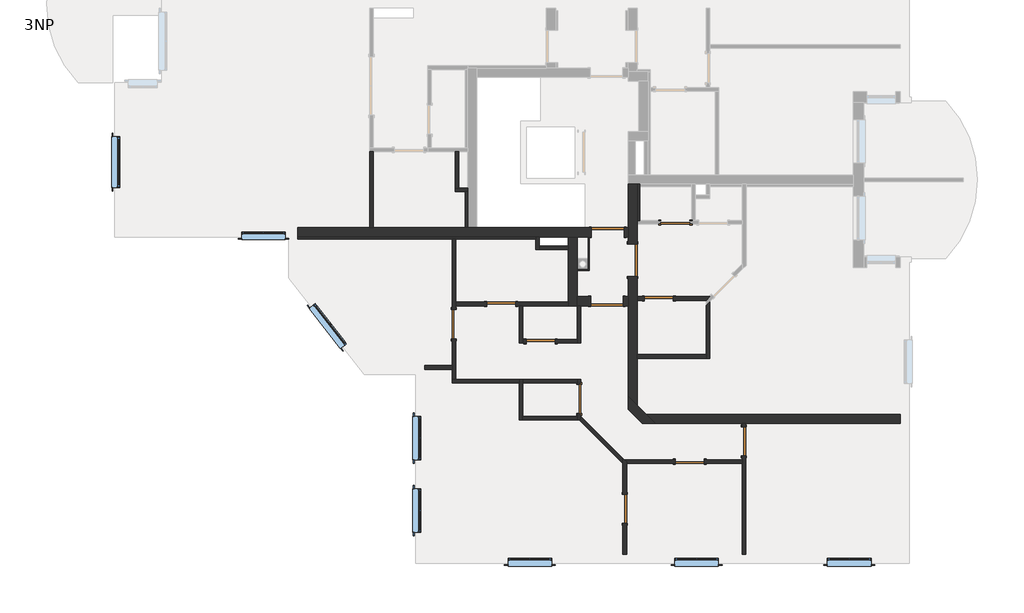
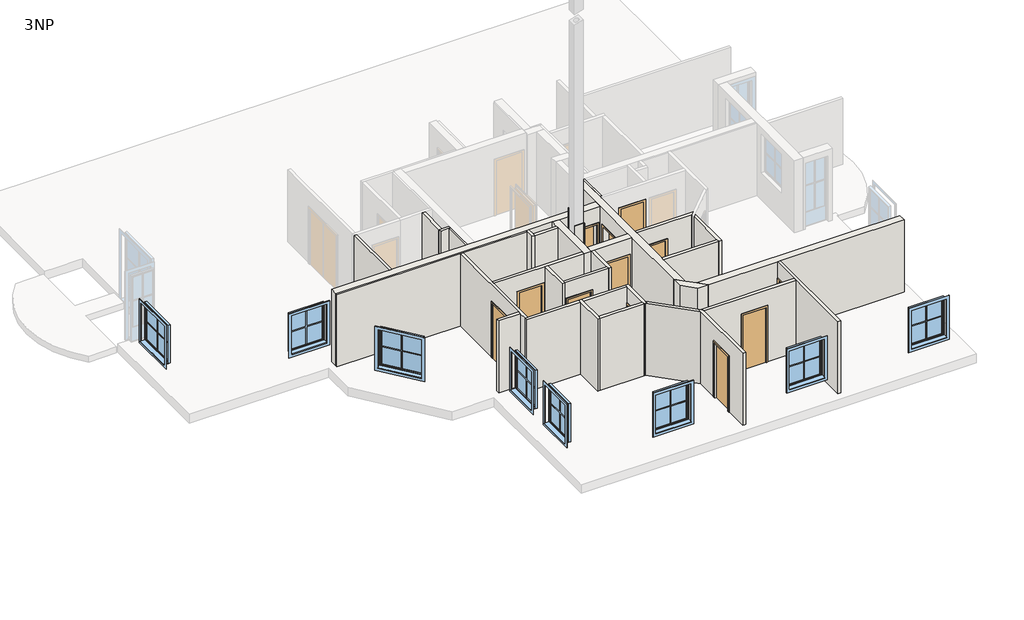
# One storey, part 1 of 4: 34 walls, 12 doors, 8 windows.
"""IFC4 building model written with IfcOpenShell, lengths in millimetres."""

import ifcopenshell
import ifcopenshell.guid

model = None  # the IFC model being written
_history = None  # IfcOwnerHistory: only IFC2X3 demands one
_inside = {}  # id of a spatial element -> (the spatial element, [elements in it])
_under = {}  # id of a project, library or spatial element -> (it, [spatial elements below it])
_declared = {}  # id of a project -> (the project, [libraries it declares])
_typed = {}  # id of a type object -> (the type object, [elements of that type])
_made_of = {}  # id of a material, layer set ... -> (it, [elements and type objects made of it])


def new_model(schema):
    """Start an empty IFC model of exactly this schema.

    Asked for "IFC4X3", IfcOpenShell would pick the latest addendum, in which some entities
    have other attributes; the version numbers below select the first issue.
    IFC2X3 requires an IfcOwnerHistory on every rooted entity: one is made here for all.
    """
    global model, _history
    if schema == "IFC4X3":
        model = ifcopenshell.file(schema_version=(4, 3, 0, 0))
    else:
        model = ifcopenshell.file(schema=schema)
    _inside.clear()
    _under.clear()
    _declared.clear()
    _typed.clear()
    _made_of.clear()
    _history = None
    if model.schema == "IFC2X3":
        org = make("IfcOrganization", Name="unknown")
        user = make(
            "IfcPersonAndOrganization",
            ThePerson=make("IfcPerson", FamilyName="unknown"),
            TheOrganization=org,
        )
        app = make(
            "IfcApplication",
            ApplicationDeveloper=org,
            Version="unknown",
            ApplicationFullName="unknown",
            ApplicationIdentifier="unknown",
        )
        _history = make(
            "IfcOwnerHistory",
            OwningUser=user,
            OwningApplication=app,
            ChangeAction="ADDED",
            CreationDate=0,
        )
    return model


def make(cls, **values):
    """One entity of the class cls with the attributes given. An attribute that is None is left unset."""
    return model.create_entity(
        cls, **{name: value for name, value in values.items() if value is not None}
    )


def rooted(cls, **values):
    """An entity with a GlobalId (a new one), such as an element, a storey or a relation."""
    return make(cls, GlobalId=ifcopenshell.guid.new(), OwnerHistory=_history, **values)


def si_unit(unit_type, name, prefix=None):
    """IfcSIUnit, for example si_unit("LENGTHUNIT", "METRE", prefix="MILLI")."""
    return make("IfcSIUnit", UnitType=unit_type, Prefix=prefix, Name=name)


def assignment(units):
    """IfcUnitAssignment: the units of a project."""
    return None if units is None else make("IfcUnitAssignment", Units=units)


def point(xyz):
    """IfcCartesianPoint."""
    return None if xyz is None else make("IfcCartesianPoint", Coordinates=xyz)


def direction(xyz):
    """IfcDirection."""
    return None if xyz is None else make("IfcDirection", DirectionRatios=xyz)


def frame(location, z_axis=None, x_axis=None):
    """IfcAxis2Placement3D, a coordinate frame: its origin and axes. An axis left out is left unset."""
    return make(
        "IfcAxis2Placement3D",
        Location=point(location),
        Axis=direction(z_axis),
        RefDirection=direction(x_axis),
    )


def origin():
    """The frame at (0, 0, 0) with its axes left unset."""
    return frame((0.0, 0.0, 0.0))


def origin_with_axes():
    """The frame at (0, 0, 0) with the z axis (0, 0, 1) and the x axis (1, 0, 0) written out."""
    return frame((0.0, 0.0, 0.0), z_axis=(0.0, 0.0, 1.0), x_axis=(1.0, 0.0, 0.0))


def place(relative_to, where):
    """IfcLocalPlacement: puts the frame where relative to a parent placement (None: the world)."""
    return make(
        "IfcLocalPlacement", PlacementRelTo=relative_to, RelativePlacement=where
    )


def context(
    kind, dimensions, precision=None, world=None, true_north=None, identifier=None
):
    """IfcGeometricRepresentationContext, for example the 3D "Model" context."""
    return make(
        "IfcGeometricRepresentationContext",
        ContextIdentifier=identifier,
        ContextType=kind,
        CoordinateSpaceDimension=dimensions,
        Precision=precision,
        WorldCoordinateSystem=world,
        TrueNorth=true_north,
    )


def project(units=None, contexts=None):
    """IfcProject with its units and contexts."""
    return rooted(
        "IfcProject",
        Name="project",
        RepresentationContexts=contexts,
        UnitsInContext=assignment(units),
    )


def spatial(cls, under=None, at=None, **own):
    """A site, building, storey or space (cls), placed at a placement, below another one or the project."""
    s = rooted(cls, ObjectPlacement=at, **own)
    if under is not None:
        _under.setdefault(under.id(), (under, []))[1].append(s)
    return s


def polyline(points):
    """IfcPolyline through the points."""
    return make("IfcPolyline", Points=[point(p) for p in points])


def outline(outer, holes=None, kind="AREA"):
    """IfcArbitraryClosedProfileDef: a profile drawn as a closed curve; with holes, ...WithVoids."""
    if holes is None:
        return make("IfcArbitraryClosedProfileDef", ProfileType=kind, OuterCurve=outer)
    return make(
        "IfcArbitraryProfileDefWithVoids",
        ProfileType=kind,
        OuterCurve=outer,
        InnerCurves=holes,
    )


def extrude(swept, where, along, depth):
    """IfcExtrudedAreaSolid: the profile swept, set in the frame where, extruded along a direction by depth."""
    return make(
        "IfcExtrudedAreaSolid",
        SweptArea=swept,
        Position=where,
        ExtrudedDirection=direction(along),
        Depth=depth,
    )


def faces_of(points, faces, orient=None, outer=None):
    """IfcFace entities. A face is a list of loops; a loop is a list of indices into points, from 0.

    orient and outer hold one flag for each loop. By default every Orientation is true, the
    first loop of a face is its IfcFaceOuterBound and the others are IfcFaceBound.
    """
    made = []
    for i, loops in enumerate(faces):
        bounds = []
        for j, loop in enumerate(loops):
            is_outer = j == 0 if outer is None else outer[i][j]
            bounds.append(
                make(
                    "IfcFaceOuterBound" if is_outer else "IfcFaceBound",
                    Bound=make("IfcPolyLoop", Polygon=[points[k] for k in loop]),
                    Orientation=True if orient is None else orient[i][j],
                )
            )
        made.append(make("IfcFace", Bounds=bounds))
    return made


def faceted_brep(points, faces, orient=None, outer=None, voids=None):
    """IfcFacetedBrep: a solid bounded by flat faces; with voids (closed shells), ...WithVoids."""
    shared = [point(p) for p in points]
    hull = make("IfcClosedShell", CfsFaces=faces_of(shared, faces, orient, outer))
    if voids is None:
        return make("IfcFacetedBrep", Outer=hull)
    return make(
        "IfcFacetedBrepWithVoids",
        Outer=hull,
        Voids=[
            make(cls, CfsFaces=faces_of(shared, fs, o, b)) for cls, fs, o, b in voids
        ],
    )


def shape(context_of_items, identifier, shape_type, items):
    """IfcShapeRepresentation: the items that make up one representation, for example the "Body"."""
    return make(
        "IfcShapeRepresentation",
        ContextOfItems=context_of_items,
        RepresentationIdentifier=identifier,
        RepresentationType=shape_type,
        Items=items,
    )


def source(mapping_origin, context_of_items, identifier, shape_type, items):
    """IfcRepresentationMap: a shape defined once, which mapped items show again and again."""
    return make(
        "IfcRepresentationMap",
        MappingOrigin=mapping_origin,
        MappedRepresentation=shape(context_of_items, identifier, shape_type, items),
    )


def transform(
    local_origin,
    x_axis=None,
    y_axis=None,
    z_axis=None,
    scale=None,
    scale2=None,
    scale3=None,
    uniform=True,
):
    """IfcCartesianTransformationOperator3D, or its non-uniform kind. x_axis, y_axis, z_axis: its Axis1, 2, 3."""
    if uniform:
        return make(
            "IfcCartesianTransformationOperator3D",
            Axis1=direction(x_axis),
            Axis2=direction(y_axis),
            LocalOrigin=point(local_origin),
            Scale=scale,
            Axis3=direction(z_axis),
        )
    return make(
        "IfcCartesianTransformationOperator3DnonUniform",
        Axis1=direction(x_axis),
        Axis2=direction(y_axis),
        LocalOrigin=point(local_origin),
        Scale=scale,
        Axis3=direction(z_axis),
        Scale2=scale2,
        Scale3=scale3,
    )


def mapped(mapping_source, mapping_target):
    """IfcMappedItem: shows the shape of a source again, moved by a transform."""
    return make(
        "IfcMappedItem", MappingSource=mapping_source, MappingTarget=mapping_target
    )


def made_of(thing, what):
    """Note that an element or type object is made of a material, layer set ...; save() writes the relation."""
    if what is not None:
        _made_of.setdefault(what.id(), (what, []))[1].append(thing)
    return thing


def element(
    cls,
    number,
    at=None,
    inside=None,
    cuts=None,
    type_object=None,
    material=None,
    context=None,
    identifier="Body",
    shape_type=None,
    held_by="IfcProductDefinitionShape",
    body=None,
    shapes=None,
    **own,
):
    """One element of the class cls, such as IfcWall. Its Tag is "e" and its number.

    at: its placement. inside: the storey or other place that contains it. cuts: it is an
    opening in that element (IfcRelVoidsElement). A single representation is given by context,
    identifier, shape_type and body (its items); several are given by shapes. held_by: the class
    of the entity that holds the representations. save() writes the other relations.
    """
    e = rooted(cls, Tag="e%d" % number, ObjectPlacement=at, **own)
    if body is not None:
        shapes = [shape(context, identifier, shape_type, body)]
    if shapes is not None:
        e.Representation = make(held_by, Representations=shapes)
    if inside is not None:
        _inside.setdefault(inside.id(), (inside, []))[1].append(e)
    if cuts is not None:
        rooted(
            "IfcRelVoidsElement", RelatingBuildingElement=cuts, RelatedOpeningElement=e
        )
    if type_object is not None:
        _typed.setdefault(type_object.id(), (type_object, []))[1].append(e)
    return made_of(e, material)


def aggregate(whole, parts):
    """IfcRelAggregates: a whole, such as a stair, and the parts it consists of."""
    return rooted("IfcRelAggregates", RelatingObject=whole, RelatedObjects=parts)


def save(model, path):
    """Write the relations noted so far, then the file.

    IfcRelAggregates (storeys below a building ...), IfcRelContainedInSpatialStructure (elements
    in a storey), IfcRelDefinesByType, IfcRelAssociatesMaterial and IfcRelDeclares: one each for
    every whole, place, type object, material and project.
    """
    for whole, parts in _under.values():
        aggregate(whole, parts)
    for where, things in _inside.values():
        rooted(
            "IfcRelContainedInSpatialStructure",
            RelatedElements=things,
            RelatingStructure=where,
        )
    for kind, things in _typed.values():
        rooted("IfcRelDefinesByType", RelatedObjects=things, RelatingType=kind)
    for what, things in _made_of.values():
        rooted("IfcRelAssociatesMaterial", RelatedObjects=things, RelatingMaterial=what)
    for by, libraries in _declared.values():
        rooted("IfcRelDeclares", RelatingContext=by, RelatedDefinitions=libraries)
    model.write(path)


def sd_800x2000_6a16926d(model_context):
    return source(origin(), model_context, "Body", "SweptSolid", [
        extrude(outline(polyline([(2060.0, -460.0), (0.0, -460.0), (0.0, -400.0), (2000.0, -400.0), (2000.0, 400.0), (0.0, 400.0), (0.0, 460.0), (2060.0, 460.0), (2060.0, -460.0)])), frame((0.0, -70.0, 0.0), z_axis=(0.0, 1.0, 0.0), x_axis=(0.0, 0.0, 1.0)), (0.0, 0.0, 1.0), 20.0),
        extrude(outline(polyline([(2060.0, 460.0), (2060.0, -460.0), (0.0, -460.0), (0.0, -400.0), (2000.0, -400.0), (2000.0, 400.0), (0.0, 400.0), (0.0, 460.0), (2060.0, 460.0)])), frame((0.0, 50.0, 0.0), z_axis=(0.0, 1.0, 0.0), x_axis=(0.0, 0.0, 1.0)), (0.0, 0.0, 1.0), 20.0),
        extrude(outline(polyline([(400.0, 0.0), (400.0, -50.0), (-400.0, -50.0), (-400.0, 0.0), (400.0, 0.0)])), origin_with_axes(), (0.0, 0.0, 1.0), 2000.0),
    ])


def sd_800x2000_80f4ff25(model_context):
    return source(origin(), model_context, "Body", "SweptSolid", [
        extrude(outline(polyline([(2060.0, -460.0), (0.0, -460.0), (0.0, -400.0), (2000.0, -400.0), (2000.0, 400.0), (0.0, 400.0), (0.0, 460.0), (2060.0, 460.0), (2060.0, -460.0)])), frame((0.0, 50.0, 0.0), z_axis=(0.0, 1.0, 0.0), x_axis=(0.0, 0.0, 1.0)), (0.0, 0.0, 1.0), 20.0),
        extrude(outline(polyline([(2060.0, 460.0), (2060.0, -460.0), (0.0, -460.0), (0.0, -400.0), (2000.0, -400.0), (2000.0, 400.0), (0.0, 400.0), (0.0, 460.0), (2060.0, 460.0)])), frame((0.0, -70.0, 0.0), z_axis=(0.0, 1.0, 0.0), x_axis=(0.0, 0.0, 1.0)), (0.0, 0.0, 1.0), 20.0),
        extrude(outline(polyline([(400.0, 0.0), (-400.0, 0.0), (-400.0, 50.0), (400.0, 50.0), (400.0, 0.0)])), origin_with_axes(), (0.0, 0.0, 1.0), 2000.0),
    ])


def sd_900x2000_a6683946(model_context):
    return source(origin(), model_context, "Body", "SweptSolid", [
        extrude(outline(polyline([(2060.0, -510.0), (0.0, -510.0), (0.0, -450.0), (2000.0, -450.0), (2000.0, 450.0), (0.0, 450.0), (0.0, 510.0), (2060.0, 510.0), (2060.0, -510.0)])), frame((0.0, -145.0, 0.0), z_axis=(0.0, 1.0, 0.0), x_axis=(0.0, 0.0, 1.0)), (0.0, 0.0, 1.0), 20.0),
        extrude(outline(polyline([(2060.0, 510.0), (2060.0, -510.0), (0.0, -510.0), (0.0, -450.0), (2000.0, -450.0), (2000.0, 450.0), (0.0, 450.0), (0.0, 510.0), (2060.0, 510.0)])), frame((0.0, 125.0, 0.0), z_axis=(0.0, 1.0, 0.0), x_axis=(0.0, 0.0, 1.0)), (0.0, 0.0, 1.0), 20.0),
        extrude(outline(polyline([(450.0, -75.0), (450.0, -125.0), (-450.0, -125.0), (-450.0, -75.0), (450.0, -75.0)])), origin_with_axes(), (0.0, 0.0, 1.0), 2000.0),
    ])


def sd_900x2000_4224ae2a(model_context):
    return source(origin(), model_context, "Body", "SweptSolid", [
        extrude(outline(polyline([(2060.0, -510.0), (0.0, -510.0), (0.0, -450.0), (2000.0, -450.0), (2000.0, 450.0), (0.0, 450.0), (0.0, 510.0), (2060.0, 510.0), (2060.0, -510.0)])), frame((0.0, 125.0, 0.0), z_axis=(0.0, 1.0, 0.0), x_axis=(0.0, 0.0, 1.0)), (0.0, 0.0, 1.0), 20.0),
        extrude(outline(polyline([(2060.0, 510.0), (2060.0, -510.0), (0.0, -510.0), (0.0, -450.0), (2000.0, -450.0), (2000.0, 450.0), (0.0, 450.0), (0.0, 510.0), (2060.0, 510.0)])), frame((0.0, -145.0, 0.0), z_axis=(0.0, 1.0, 0.0), x_axis=(0.0, 0.0, 1.0)), (0.0, 0.0, 1.0), 20.0),
        extrude(outline(polyline([(450.0, 75.0), (-450.0, 75.0), (-450.0, 125.0), (450.0, 125.0), (450.0, 75.0)])), origin_with_axes(), (0.0, 0.0, 1.0), 2000.0),
    ])


def standard_window_with_mullions_d3525f46(model_context):
    return source(origin(), model_context, "Body", "SweptSolid", [
        extrude(outline(polyline([(700.0, 26.9623738), (-700.0, 26.9623738), (-700.0, 180.0), (700.0, 180.0), (700.0, 26.9623738)])), frame((0.0, 0.0, 1000.0), z_axis=(0.0, 0.0, 1.0), x_axis=(1.0, 0.0, 0.0)), (0.0, 0.0, 1.0), 25.0),
        extrude(outline(polyline([(2500.0, -800.0), (900.0, -800.0), (900.0, 800.0), (2500.0, 800.0), (2500.0, -800.0)]), holes=[polyline([(2400.0, -700.0), (2400.0, 700.0), (1000.0, 700.0), (1000.0, -700.0), (2400.0, -700.0)])]), frame((0.0, 150.0, 0.0), z_axis=(0.0, 1.0, 0.0), x_axis=(0.0, 0.0, 1.0)), (0.0, 0.0, 1.0), 15.0),
        extrude(outline(polyline([(2375.0, -675.0), (1025.0, -675.0), (1025.0, 675.0), (2375.0, 675.0), (2375.0, -675.0)]), holes=[polyline([(2340.0, -640.0), (2340.0, 640.0), (1060.0, 640.0), (1060.0, -640.0), (2340.0, -640.0)])]), frame((0.0, -39.0188131, 0.0), z_axis=(0.0, 1.0, 0.0), x_axis=(0.0, 0.0, 1.0)), (0.0, 0.0, 1.0), 50.5),
        extrude(outline(polyline([(1000.0, -700.0), (1000.0, 700.0), (2400.0, 700.0), (2400.0, -700.0), (1000.0, -700.0)]), holes=[polyline([(1025.0, -675.0), (2375.0, -675.0), (2375.0, 675.0), (1025.0, 675.0), (1025.0, -675.0)])]), frame((0.0, -39.0188131, 0.0), z_axis=(0.0, 1.0, 0.0), x_axis=(0.0, 0.0, 1.0)), (0.0, 0.0, 1.0), 65.9811869),
        extrude(outline(polyline([(1715.0, 640.0), (1715.0, 15.0), (2340.0, 15.0), (2340.0, -15.0), (1715.0, -15.0), (1715.0, -640.0), (1685.0, -640.0), (1685.0, -15.0), (1060.0, -15.0), (1060.0, 15.0), (1685.0, 15.0), (1685.0, 640.0), (1715.0, 640.0)])), frame((0.0, -28.5188131, 0.0), z_axis=(0.0, 1.0, 0.0), x_axis=(0.0, 0.0, 1.0)), (0.0, 0.0, 1.0), 20.0),
        extrude(outline(polyline([(640.0, -15.5188131), (-640.0, -15.5188131), (-640.0, -13.5188131), (640.0, -13.5188131), (640.0, -15.5188131)])), frame((0.0, 0.0, 1060.0), z_axis=(0.0, 0.0, 1.0), x_axis=(1.0, 0.0, 0.0)), (0.0, 0.0, 1.0), 1280.0),
    ])


def standard_window_with_mullions_80486b60(model_context):
    return source(origin(), model_context, "Body", "SweptSolid", [
        extrude(outline(polyline([(600.0, 26.9623738), (-600.0, 26.9623738), (-600.0, 180.0), (600.0, 180.0), (600.0, 26.9623738)])), frame((0.0, 0.0, 1000.0), z_axis=(0.0, 0.0, 1.0), x_axis=(1.0, 0.0, 0.0)), (0.0, 0.0, 1.0), 25.0),
        extrude(outline(polyline([(2500.0, -700.0), (900.0, -700.0), (900.0, 700.0), (2500.0, 700.0), (2500.0, -700.0)]), holes=[polyline([(2400.0, -600.0), (2400.0, 600.0), (1000.0, 600.0), (1000.0, -600.0), (2400.0, -600.0)])]), frame((0.0, 150.0, 0.0), z_axis=(0.0, 1.0, 0.0), x_axis=(0.0, 0.0, 1.0)), (0.0, 0.0, 1.0), 15.0),
        extrude(outline(polyline([(2375.0, -575.0), (1025.0, -575.0), (1025.0, 575.0), (2375.0, 575.0), (2375.0, -575.0)]), holes=[polyline([(2340.0, -540.0), (2340.0, 540.0), (1060.0, 540.0), (1060.0, -540.0), (2340.0, -540.0)])]), frame((0.0, -39.0188131, 0.0), z_axis=(0.0, 1.0, 0.0), x_axis=(0.0, 0.0, 1.0)), (0.0, 0.0, 1.0), 50.5),
        extrude(outline(polyline([(1000.0, -600.0), (1000.0, 600.0), (2400.0, 600.0), (2400.0, -600.0), (1000.0, -600.0)]), holes=[polyline([(1025.0, -575.0), (2375.0, -575.0), (2375.0, 575.0), (1025.0, 575.0), (1025.0, -575.0)])]), frame((0.0, -39.0188131, 0.0), z_axis=(0.0, 1.0, 0.0), x_axis=(0.0, 0.0, 1.0)), (0.0, 0.0, 1.0), 65.9811869),
        extrude(outline(polyline([(1715.0, 540.0), (1715.0, 15.0), (2340.0, 15.0), (2340.0, -15.0), (1715.0, -15.0), (1715.0, -540.0), (1685.0, -540.0), (1685.0, -15.0), (1060.0, -15.0), (1060.0, 15.0), (1685.0, 15.0), (1685.0, 540.0), (1715.0, 540.0)])), frame((0.0, -28.5188131, 0.0), z_axis=(0.0, 1.0, 0.0), x_axis=(0.0, 0.0, 1.0)), (0.0, 0.0, 1.0), 20.0),
        extrude(outline(polyline([(540.0, -15.5188131), (-540.0, -15.5188131), (-540.0, -13.5188131), (540.0, -13.5188131), (540.0, -15.5188131)])), frame((0.0, 0.0, 1060.0), z_axis=(0.0, 0.0, 1.0), x_axis=(1.0, 0.0, 0.0)), (0.0, 0.0, 1.0), 1280.0),
    ])


model = new_model("IFC4")

# Units and contexts
model_context = context("Model", 3, world=origin())
ifc_project = project(units=[si_unit("LENGTHUNIT", "METRE", prefix="MILLI")], contexts=[model_context])

# Site, building, storey
site = spatial("IfcSite", under=ifc_project)
building = spatial("IfcBuilding", under=site)
storey = spatial("IfcBuildingStorey", under=building, Name="3NP", Elevation=5900.0)

# Doors
placement = place(None, origin())
sd_800x2000_shape = sd_800x2000_6a16926d(model_context)
element("IfcDoor", 1, ObjectType="JednokridlePlne : SD 800x2000", at=placement, inside=storey, context=model_context, shape_type="MappedRepresentation", body=[
    mapped(sd_800x2000_shape, transform((3260.550214, -8282.3709459, 5900.0), x_axis=(0.9999999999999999, 0.0, 0.0), y_axis=(0.0, 0.9999999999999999, 0.0), z_axis=(0.0, 0.0, 1.0))),
])
sd_800x2000_2_shape = sd_800x2000_80f4ff25(model_context)
element("IfcDoor", 2, ObjectType="JednokridlePlne : SD 800x2000", at=placement, inside=storey, context=model_context, shape_type="MappedRepresentation", body=[
    mapped(sd_800x2000_2_shape, transform((2865.7332503, -1682.3709459, 5900.0), x_axis=(-1.0, 0.0, 0.0), y_axis=(0.0, -1.0, 0.0), z_axis=(0.0, 0.0, 1.0))),
])
element("IfcDoor", 3, ObjectType="JednokridlePlne : SD 800x2000", at=placement, inside=storey, context=model_context, shape_type="MappedRepresentation", body=[
    mapped(sd_800x2000_2_shape, transform((2412.0268037, -3782.3709459, 5900.0), x_axis=(1.0, 0.0, 0.0), y_axis=(0.0, 1.0, 0.0), z_axis=(0.0, 0.0, 1.0))),
])
element("IfcDoor", 4, ObjectType="JednokridlePlne : SD 800x2000", at=placement, inside=storey, context=model_context, shape_type="MappedRepresentation", body=[
    mapped(sd_800x2000_2_shape, transform((-1935.2960431, -3932.3709459, 5900.0), x_axis=(1.0, 0.0, 0.0), y_axis=(0.0, 1.0, 0.0), z_axis=(0.0, 0.0, 1.0))),
])
element("IfcDoor", 5, ObjectType="JednokridlePlne : SD 800x2000", at=placement, inside=storey, context=model_context, shape_type="MappedRepresentation", body=[
    mapped(sd_800x2000_2_shape, transform((-847.1962165, -4962.3709459, 5900.0), x_axis=(1.0, 0.0, 0.0), y_axis=(0.0, 1.0, 0.0), z_axis=(0.0, 0.0, 1.0))),
])
element("IfcDoor", 6, ObjectType="JednokridlePlne : SD 800x2000", at=placement, inside=storey, context=model_context, shape_type="MappedRepresentation", body=[
    mapped(sd_800x2000_2_shape, transform((-3237.1962165, -4492.2910381, 5900.0), x_axis=(0.0, 1.0, 0.0), y_axis=(-1.0, 0.0, 0.0), z_axis=(0.0, 0.0, 1.0))),
])
element("IfcDoor", 7, ObjectType="JednokridlePlne : SD 800x2000", at=placement, inside=storey, context=model_context, shape_type="MappedRepresentation", body=[
    mapped(sd_800x2000_2_shape, transform((212.8037835, -6551.9513234, 5900.0), x_axis=(0.0, -1.0, 0.0), y_axis=(1.0, 0.0, 0.0), z_axis=(0.0, 0.0, 1.0))),
])
element("IfcDoor", 8, ObjectType="JednokridlePlne : SD 800x2000", at=placement, inside=storey, context=model_context, shape_type="MappedRepresentation", body=[
    mapped(sd_800x2000_2_shape, transform((4753.039213, -7722.1014891, 5900.0), x_axis=(0.0, -1.0, 0.0), y_axis=(1.0, 0.0, 0.0), z_axis=(0.0, 0.0, 1.0))),
])
element("IfcDoor", 9, ObjectType="JednokridlePlne : SD 800x2000", at=placement, inside=storey, context=model_context, shape_type="MappedRepresentation", body=[
    mapped(sd_800x2000_2_shape, transform((1471.3824272, -9582.3709459, 5900.0), x_axis=(0.0, -0.9999999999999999, 0.0), y_axis=(0.9999999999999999, 0.0, 0.0), z_axis=(0.0, 0.0, 1.0))),
])
sd_900x2000_shape = sd_900x2000_a6683946(model_context)
element("IfcDoor", 10, ObjectType="JednokridlePlne : SD 900x2000", at=placement, inside=storey, context=model_context, shape_type="MappedRepresentation", body=[
    mapped(sd_900x2000_shape, transform((1002.8073642, -1957.3709459, 5900.0), x_axis=(-1.0, 0.0, 0.0), y_axis=(0.0, -1.0, 0.0), z_axis=(0.0, 0.0, 1.0))),
])
sd_900x2000_2_shape = sd_900x2000_4224ae2a(model_context)
element("IfcDoor", 11, ObjectType="JednokridlePlne : SD 900x2000", at=placement, inside=storey, context=model_context, shape_type="MappedRepresentation", body=[
    mapped(sd_900x2000_2_shape, transform((980.1794135, -3857.3709459, 5900.0), x_axis=(-1.0, 0.0, 0.0), y_axis=(0.0, -1.0, 0.0), z_axis=(0.0, 0.0, 1.0))),
])
element("IfcDoor", 12, ObjectType="JednokridlePlne : SD 900x2000", at=placement, inside=storey, context=model_context, shape_type="MappedRepresentation", body=[
    mapped(sd_900x2000_2_shape, transform((1687.8070318, -2727.079256, 5900.0), x_axis=(-8.145451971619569e-07, -0.9999999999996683, 0.0), y_axis=(0.9999999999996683, -8.145451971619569e-07, 0.0), z_axis=(0.0, 0.0, 1.0))),
])

# Walls
element("IfcWall", 13, ObjectType="Interior - 100mm", at=placement, inside=storey, context=model_context, shape_type="SweptSolid", body=[
    extrude(outline(polyline([(-3207.1962165, -732.3709459), (-3207.1962165, 267.6290541), (-3107.1962165, 267.6290541), (-3107.1962165, -732.3709459), (-3207.1962165, -732.3709459)])), frame((0.0, 0.0, 5900.0), z_axis=(0.0, 0.0, 1.0), x_axis=(1.0, 0.0, 0.0)), (0.0, 0.0, 1.0), 2630.0),
])
element("IfcWall", 14, ObjectType="Interior - 100mm", at=placement, inside=storey, context=model_context, shape_type="Brep", body=[
    faceted_brep([(-3207.1962165, -832.3709459, 5900.0), (-2922.1962165, -832.3709459, 5900.0), (-2857.1962165, -832.3709459, 5900.0), (-2857.1962165, -832.3709459, 8530.0), (-2922.1962165, -832.3709459, 8530.0), (-3207.1962165, -832.3709459, 8530.0), (-3207.1962165, -732.3709459, 5900.0), (-3207.1962165, -732.3709459, 8530.0), (-3107.1962165, -732.3709459, 8530.0), (-2857.1962165, -732.3709459, 8530.0), (-2857.1962165, -732.3709459, 5900.0), (-3107.1962165, -732.3709459, 5900.0)], [[[0, 1, 2, 3, 4, 5]], [[6, 7, 8, 9, 10, 11]], [[2, 1, 0, 6, 11, 10]], [[0, 5, 7, 6]], [[3, 2, 10, 9]], [[5, 4, 3, 9, 8, 7]]]),
])
element("IfcWall", 15, ObjectType="Interior - 100mm", at=placement, inside=storey, context=model_context, shape_type="Brep", body=[
    faceted_brep([(-986.4381272, -2082.3709459, 5900.0), (-986.4381272, -2147.3709459, 5900.0), (-986.4381272, -2432.3709459, 5900.0), (-986.4381272, -2432.3709459, 8530.0), (-986.4381272, -2147.3709459, 8530.0), (-986.4381272, -2082.3709459, 8530.0), (-886.4381272, -2082.3709459, 5900.0), (-886.4381272, -2082.3709459, 8530.0), (-886.4381272, -2332.3709459, 8530.0), (-886.4381272, -2432.3709459, 8530.0), (-886.4381272, -2432.3709459, 5900.0), (-886.4381272, -2332.3709459, 5900.0)], [[[0, 1, 2, 3, 4, 5]], [[6, 7, 8, 9, 10, 11]], [[2, 1, 0, 6, 11, 10]], [[3, 2, 10, 9]], [[0, 5, 7, 6]], [[5, 4, 3, 9, 8, 7]]]),
])
element("IfcWall", 16, ObjectType="Interior - 100mm", at=placement, inside=storey, context=model_context, shape_type="SweptSolid", body=[
    extrude(outline(polyline([(-86.4381272, -2432.3709459), (-886.4381272, -2432.3709459), (-886.4381272, -2332.3709459), (-86.4381272, -2332.3709459), (-86.4381272, -2432.3709459)])), frame((0.0, 0.0, 5900.0), z_axis=(0.0, 0.0, 1.0), x_axis=(1.0, 0.0, 0.0)), (0.0, 0.0, 1.0), 2630.0),
])
element("IfcWall", 17, ObjectType="Interior - 100mm", at=placement, inside=storey, context=model_context, shape_type="Brep", body=[
    faceted_brep([(4703.039213, -7232.3709459, 8530.0), (4703.039213, -7232.3709459, 5900.0), (4703.039213, -7322.1014891, 5900.0), (4703.039213, -7322.1014891, 7900.0), (4703.039213, -8122.1014891, 7900.0), (4703.039213, -8122.1014891, 5900.0), (4703.039213, -8232.3709459, 5900.0), (4703.039213, -8332.3709459, 5900.0), (4703.039213, -10832.3709459, 5900.0), (4703.039213, -10832.3709459, 8530.0), (4703.039213, -8332.3709459, 8530.0), (4703.039213, -8232.3709459, 8530.0), (4803.039213, -7232.3709459, 5900.0), (4803.039213, -7232.3709459, 8530.0), (4803.039213, -10832.3709459, 8530.0), (4803.039213, -10832.3709459, 5900.0), (4803.039213, -8122.1014891, 5900.0), (4803.039213, -8122.1014891, 7900.0), (4803.039213, -7322.1014891, 7900.0), (4803.039213, -7322.1014891, 5900.0)], [[[0, 1, 2, 3, 4, 5, 6, 7, 8, 9, 10, 11]], [[12, 13, 14, 15, 16, 17, 18, 19]], [[1, 12, 19, 2]], [[15, 8, 7, 6, 5, 16]], [[1, 0, 13, 12]], [[9, 8, 15, 14]], [[0, 11, 10, 9, 14, 13]], [[4, 17, 16, 5]], [[17, 4, 3, 18]], [[18, 3, 2, 19]]]),
])
element("IfcWall", 18, ObjectType="Interior - 100mm", at=placement, inside=storey, context=model_context, shape_type="Brep", body=[
    faceted_brep([(1421.3824272, -9982.3709459, 7900.0), (1421.3824272, -9982.3709459, 5900.0), (1421.3824272, -10832.3709459, 5900.0), (1421.3824272, -10832.3709459, 8530.0), (1421.3824272, -8332.3709459, 8530.0), (1421.3824272, -8190.9495897, 8530.0), (1421.3824272, -8190.9495897, 5900.0), (1421.3824272, -8332.3709459, 5900.0), (1421.3824272, -9182.3709459, 5900.0), (1421.3824272, -9182.3709459, 7900.0), (1521.3824272, -10832.3709459, 5900.0), (1521.3824272, -9982.3709459, 5900.0), (1521.3824272, -9982.3709459, 7900.0), (1521.3824272, -9182.3709459, 7900.0), (1521.3824272, -9182.3709459, 5900.0), (1521.3824272, -8332.3709459, 5900.0), (1521.3824272, -8290.9495897, 5900.0), (1521.3824272, -8290.9495897, 8530.0), (1521.3824272, -8332.3709459, 8530.0), (1521.3824272, -10832.3709459, 8530.0), (1462.8037835, -8232.3709459, 5900.0), (1462.8037835, -8232.3709459, 8530.0)], [[[0, 1, 2, 3, 4, 5, 6, 7, 8, 9]], [[10, 11, 12, 13, 14, 15, 16, 17, 18, 19]], [[2, 1, 11, 10]], [[8, 7, 6, 20, 16, 15, 14]], [[6, 5, 21, 17, 16, 20]], [[3, 2, 10, 19]], [[5, 4, 3, 19, 18, 17, 21]], [[12, 11, 1, 0]], [[13, 12, 0, 9]], [[14, 13, 9, 8]]]),
])
element("IfcWall", 19, ObjectType="Interior - 100mm", at=placement, inside=storey, context=model_context, shape_type="Brep", body=[
    faceted_brep([(3712.8037835, -3973.7923022, 5900.0), (3712.8037835, -5332.3709459, 5900.0), (3712.8037835, -5432.3709459, 5900.0), (3712.8037835, -5432.3709459, 8530.0), (3712.8037835, -5332.3709459, 8530.0), (3712.8037835, -3973.7923022, 8530.0), (3812.8037835, -3873.7923022, 5900.0), (3812.8037835, -3873.7923022, 8530.0), (3812.8037835, -5432.3709459, 8530.0), (3812.8037835, -5432.3709459, 5900.0)], [[[0, 1, 2, 3, 4, 5]], [[6, 7, 8, 9]], [[2, 1, 0, 6, 9]], [[3, 2, 9, 8]], [[0, 5, 7, 6]], [[5, 4, 3, 8, 7]]]),
])
element("IfcWall", 20, ObjectType="Interior - 100mm", at=placement, inside=storey, context=model_context, shape_type="SweptSolid", body=[
    extrude(outline(polyline([(1812.8049097, -5332.3709459), (3712.8037835, -5332.3709459), (3712.8037835, -5432.3709459), (1812.8048282, -5432.3709459), (1812.8049097, -5332.3709459)])), frame((0.0, 0.0, 5900.0), z_axis=(0.0, 0.0, 1.0), x_axis=(1.0, 0.0, 0.0)), (0.0, 0.0, 1.0), 2630.0),
])
element("IfcWall", 21, ObjectType="Interior - 100mm", at=placement, inside=storey, context=model_context, shape_type="Brep", body=[
    faceted_brep([(3812.8037835, -3732.3709459, 5900.0), (2812.0268037, -3732.3709459, 5900.0), (2812.0268037, -3732.3709459, 7900.0), (2012.0268037, -3732.3709459, 7900.0), (2012.0268037, -3732.3709459, 5900.0), (1812.806213, -3732.3709459, 5900.0), (1812.806213, -3732.3709459, 8530.0), (3812.8037835, -3732.3709459, 8530.0), (2812.0268037, -3832.3709459, 7900.0), (2812.0268037, -3832.3709459, 5900.0), (3712.8037835, -3832.3709459, 5900.0), (3712.8037835, -3832.3709459, 8530.0), (1812.8061315, -3832.3709459, 8530.0), (1812.8061315, -3832.3709459, 5900.0), (2012.0268037, -3832.3709459, 5900.0), (2012.0268037, -3832.3709459, 7900.0)], [[[0, 1, 2, 3, 4, 5, 6, 7]], [[8, 9, 10, 11, 12, 13, 14, 15]], [[10, 9, 1, 0]], [[14, 13, 5, 4]], [[6, 5, 13, 12]], [[0, 7, 11, 10]], [[7, 6, 12, 11]], [[2, 1, 9, 8]], [[3, 2, 8, 15]], [[4, 3, 15, 14]]]),
])
element("IfcWall", 22, ObjectType="Interior - 100mm", at=placement, inside=storey, context=model_context, shape_type="SweptSolid", body=[
    extrude(outline(polyline([(-5457.1962165, 267.6290541), (-5457.1962165, -1832.3709459), (-5557.1962165, -1832.3709459), (-5557.1962165, 267.6290541), (-5457.1962165, 267.6290541)])), frame((0.0, 0.0, 5900.0), z_axis=(0.0, 0.0, 1.0), x_axis=(1.0, 0.0, 0.0)), (0.0, 0.0, 1.0), 2630.0),
])
element("IfcWall", 23, ObjectType="Interior - 100mm", at=placement, inside=storey, context=model_context, shape_type="Brep", body=[
    faceted_brep([(4703.039213, -8232.3709459, 5900.0), (3660.550214, -8232.3709459, 5900.0), (3660.550214, -8232.3709459, 7900.0), (2860.550214, -8232.3709459, 7900.0), (2860.550214, -8232.3709459, 5900.0), (1462.8037835, -8232.3709459, 5900.0), (1462.8037835, -8232.3709459, 8530.0), (4703.039213, -8232.3709459, 8530.0), (3660.550214, -8332.3709459, 7900.0), (3660.550214, -8332.3709459, 5900.0), (4703.039213, -8332.3709459, 5900.0), (4703.039213, -8332.3709459, 8530.0), (1521.3824272, -8332.3709459, 8530.0), (1521.3824272, -8332.3709459, 5900.0), (2860.550214, -8332.3709459, 5900.0), (2860.550214, -8332.3709459, 7900.0), (1521.3824272, -8290.9495897, 5900.0), (1521.3824272, -8290.9495897, 8530.0)], [[[0, 1, 2, 3, 4, 5, 6, 7]], [[8, 9, 10, 11, 12, 13, 14, 15]], [[10, 9, 1, 0]], [[14, 13, 16, 5, 4]], [[0, 7, 11, 10]], [[6, 5, 16, 17]], [[16, 13, 12, 17]], [[7, 6, 17, 12, 11]], [[2, 1, 9, 8]], [[3, 2, 8, 15]], [[4, 3, 15, 14]]]),
])
element("IfcWall", 24, ObjectType="Interior - 100mm", at=placement, inside=storey, context=model_context, shape_type="SweptSolid", body=[
    extrude(outline(polyline([(1421.3824272, -8332.3709459), (221.3824272, -7132.3709459), (262.8037835, -7132.3709459), (262.8037835, -7032.3709459), (1421.3824272, -8190.9495897), (1421.3824272, -8332.3709459)])), frame((0.0, 0.0, 5900.0), z_axis=(0.0, 0.0, 1.0), x_axis=(1.0, 0.0, 0.0)), (0.0, 0.0, 1.0), 2630.0),
])
element("IfcWall", 25, ObjectType="Interior - 100mm", at=placement, inside=storey, context=model_context, shape_type="SweptSolid", body=[
    extrude(outline(polyline([(7900.0, -447.1962165), (5900.0, -447.1962165), (5900.0, 162.8037835), (8530.0, 162.8037835), (8530.0, -1337.1962165), (5900.0, -1337.1962165), (5900.0, -1247.1962165), (7900.0, -1247.1962165), (7900.0, -447.1962165)])), frame((0.0, -5012.3709459, 0.0), z_axis=(0.0, 1.0, 0.0), x_axis=(0.0, 0.0, 1.0)), (0.0, 0.0, 1.0), 100.0),
])
element("IfcWall", 26, ObjectType="Interior - 100mm", at=placement, inside=storey, context=model_context, shape_type="Brep", body=[
    faceted_brep([(-1337.1962165, -7132.3709459, 5900.0), (-1337.1962165, -7032.3709459, 5900.0), (-1337.1962165, -6112.3709459, 5900.0), (-1337.1962165, -6012.3709459, 5900.0), (-1337.1962165, -6012.3709459, 8530.0), (-1337.1962165, -6112.3709459, 8530.0), (-1337.1962165, -7032.3709459, 8530.0), (-1337.1962165, -7132.3709459, 8530.0), (-1437.1962165, -7132.3709459, 5900.0), (-1437.1962165, -7132.3709459, 8530.0), (-1437.1962165, -6112.3709459, 8530.0), (-1437.1962165, -6012.3709459, 8530.0), (-1437.1962165, -6012.3709459, 5900.0), (-1437.1962165, -6112.3709459, 5900.0)], [[[0, 1, 2, 3, 4, 5, 6, 7]], [[8, 9, 10, 11, 12, 13]], [[3, 2, 1, 0, 8, 13, 12]], [[0, 7, 9, 8]], [[4, 3, 12, 11]], [[7, 6, 5, 4, 11, 10, 9]]]),
])
element("IfcWall", 27, ObjectType="Interior - 100mm", at=placement, inside=storey, context=model_context, shape_type="SweptSolid", body=[
    extrude(outline(polyline([(-1337.1962165, -7032.3709459), (162.8037835, -7032.3709459), (162.8037835, -7132.3709459), (-1337.1962165, -7132.3709459), (-1337.1962165, -7032.3709459)])), frame((0.0, 0.0, 5900.0), z_axis=(0.0, 0.0, 1.0), x_axis=(1.0, 0.0, 0.0)), (0.0, 0.0, 1.0), 2630.0),
])
element("IfcWall", 28, ObjectType="Interior - 100mm", at=placement, inside=storey, context=model_context, shape_type="Brep", body=[
    faceted_brep([(162.8037835, -3982.3709459, 5900.0), (162.8037835, -4912.3709459, 5900.0), (162.8037835, -5012.3709459, 5900.0), (162.8037835, -5012.3709459, 8530.0), (162.8037835, -4912.3709459, 8530.0), (162.8037835, -3982.3709459, 8530.0), (262.8037835, -3982.3709459, 5900.0), (262.8037835, -3982.3709459, 8530.0), (262.8037835, -5012.3709459, 8530.0), (262.8037835, -5012.3709459, 5900.0), (163.5618728, -3982.3709459, 5900.0), (163.5618728, -3982.3709459, 8530.0)], [[[0, 1, 2, 3, 4, 5]], [[6, 7, 8, 9]], [[2, 1, 0, 10, 6, 9]], [[3, 2, 9, 8]], [[0, 5, 11, 7, 6, 10]], [[5, 4, 3, 8, 7, 11]]]),
])
element("IfcWall", 29, ObjectType="Interior - 100mm", at=placement, inside=storey, context=model_context, shape_type="SweptSolid", body=[
    extrude(outline(polyline([(162.8037835, -6112.3709459), (-1337.1962165, -6112.3709459), (-1337.1962165, -6012.3709459), (162.8037835, -6012.3709459), (162.8037835, -6112.3709459)])), frame((0.0, 0.0, 5900.0), z_axis=(0.0, 0.0, 1.0), x_axis=(1.0, 0.0, 0.0)), (0.0, 0.0, 1.0), 2630.0),
])
element("IfcWall", 30, ObjectType="Interior - 100mm", at=placement, inside=storey, context=model_context, shape_type="SweptSolid", body=[
    extrude(outline(polyline([(-3287.1962165, -5732.3709459), (-4037.1962165, -5732.3709459), (-4037.1962165, -5632.3709459), (-3287.1962165, -5632.3709459), (-3287.1962165, -5732.3709459)])), frame((0.0, 0.0, 5900.0), z_axis=(0.0, 0.0, 1.0), x_axis=(1.0, 0.0, 0.0)), (0.0, 0.0, 1.0), 2630.0),
])
element("IfcWall", 31, ObjectType="Interior - 100mm", at=placement, inside=storey, context=model_context, shape_type="Brep", body=[
    faceted_brep([(-3287.1962165, -2147.3709459, 5900.0), (-3287.1962165, -4092.2910381, 5900.0), (-3287.1962165, -4092.2910381, 7900.0), (-3287.1962165, -4892.2910381, 7900.0), (-3287.1962165, -4892.2910381, 5900.0), (-3287.1962165, -5632.3709459, 5900.0), (-3287.1962165, -5732.3709459, 5900.0), (-3287.1962165, -6012.3709459, 5900.0), (-3287.1962165, -6012.3709459, 8530.0), (-3287.1962165, -5732.3709459, 8530.0), (-3287.1962165, -5632.3709459, 8530.0), (-3287.1962165, -2147.3709459, 8530.0), (-3187.1962165, -4092.2910381, 7900.0), (-3187.1962165, -4092.2910381, 5900.0), (-3187.1962165, -3982.3709459, 5900.0), (-3187.1962165, -3882.3709459, 5900.0), (-3187.1962165, -2147.3709459, 5900.0), (-3187.1962165, -2147.3709459, 8530.0), (-3187.1962165, -3882.3709459, 8530.0), (-3187.1962165, -3982.3709459, 8530.0), (-3187.1962165, -6012.3709459, 8530.0), (-3187.1962165, -6012.3709459, 5900.0), (-3187.1962165, -4892.2910381, 5900.0), (-3187.1962165, -4892.2910381, 7900.0)], [[[0, 1, 2, 3, 4, 5, 6, 7, 8, 9, 10, 11]], [[12, 13, 14, 15, 16, 17, 18, 19, 20, 21, 22, 23]], [[16, 15, 14, 13, 1, 0]], [[22, 21, 7, 6, 5, 4]], [[0, 11, 17, 16]], [[8, 7, 21, 20]], [[11, 10, 9, 8, 20, 19, 18, 17]], [[2, 1, 13, 12]], [[3, 2, 12, 23]], [[4, 3, 23, 22]]]),
])
element("IfcWall", 32, ObjectType="Interior - 100mm", at=placement, inside=storey, context=model_context, shape_type="Brep", body=[
    faceted_brep([(-86.4381272, -3882.3709459, 5900.0), (-1535.2960431, -3882.3709459, 5900.0), (-1535.2960431, -3882.3709459, 7900.0), (-2335.2960431, -3882.3709459, 7900.0), (-2335.2960431, -3882.3709459, 5900.0), (-3187.1962165, -3882.3709459, 5900.0), (-3187.1962165, -3882.3709459, 8530.0), (-86.4381272, -3882.3709459, 8530.0), (-1535.2960431, -3982.3709459, 7900.0), (-1535.2960431, -3982.3709459, 5900.0), (-1437.1962165, -3982.3709459, 5900.0), (-1337.1962165, -3982.3709459, 5900.0), (-86.4381272, -3982.3709459, 5900.0), (-86.4381272, -3982.3709459, 8530.0), (-1337.1962165, -3982.3709459, 8530.0), (-1437.1962165, -3982.3709459, 8530.0), (-3187.1962165, -3982.3709459, 8530.0), (-3187.1962165, -3982.3709459, 5900.0), (-2335.2960431, -3982.3709459, 5900.0), (-2335.2960431, -3982.3709459, 7900.0)], [[[0, 1, 2, 3, 4, 5, 6, 7]], [[8, 9, 10, 11, 12, 13, 14, 15, 16, 17, 18, 19]], [[12, 11, 10, 9, 1, 0]], [[18, 17, 5, 4]], [[6, 5, 17, 16]], [[0, 7, 13, 12]], [[7, 6, 16, 15, 14, 13]], [[2, 1, 9, 8]], [[3, 2, 8, 19]], [[4, 3, 19, 18]]]),
])
element("IfcWall", 33, ObjectType="Interior - 100mm", at=placement, inside=storey, context=model_context, shape_type="Brep", body=[
    faceted_brep([(-3287.1962165, -6112.3709459, 5900.0), (-1437.1962165, -6112.3709459, 5900.0), (-1437.1962165, -6112.3709459, 8530.0), (-3287.1962165, -6112.3709459, 8530.0), (-3287.1962165, -6012.3709459, 5900.0), (-3287.1962165, -6012.3709459, 8530.0), (-3187.1962165, -6012.3709459, 8530.0), (-1437.1962165, -6012.3709459, 8530.0), (-1437.1962165, -6012.3709459, 5900.0), (-3187.1962165, -6012.3709459, 5900.0)], [[[0, 1, 2, 3]], [[4, 5, 6, 7, 8, 9]], [[1, 0, 4, 9, 8]], [[0, 3, 5, 4]], [[2, 1, 8, 7]], [[3, 2, 7, 6, 5]]]),
])
element("IfcWall", 34, ObjectType="Interior - 100mm", at=placement, inside=storey, context=model_context, shape_type="Brep", body=[
    faceted_brep([(-1337.1962165, -5012.3709459, 5900.0), (-1337.1962165, -4912.3709459, 5900.0), (-1337.1962165, -3982.3709459, 5900.0), (-1337.1962165, -3982.3709459, 8530.0), (-1337.1962165, -4912.3709459, 8530.0), (-1337.1962165, -5012.3709459, 8530.0), (-1437.1962165, -5012.3709459, 5900.0), (-1437.1962165, -5012.3709459, 8530.0), (-1437.1962165, -3982.3709459, 8530.0), (-1437.1962165, -3982.3709459, 5900.0)], [[[0, 1, 2, 3, 4, 5]], [[6, 7, 8, 9]], [[2, 1, 0, 6, 9]], [[0, 5, 7, 6]], [[3, 2, 9, 8]], [[5, 4, 3, 8, 7]]]),
])
element("IfcWall", 35, ObjectType="Interior - 100mm", at=placement, inside=storey, context=model_context, shape_type="Brep", body=[
    faceted_brep([(162.8037835, -6951.9513234, 7900.0), (162.8037835, -6951.9513234, 5900.0), (162.8037835, -7032.3709459, 5900.0), (162.8037835, -7132.3709459, 5900.0), (162.8037835, -7132.3709459, 8530.0), (162.8037835, -7032.3709459, 8530.0), (162.8037835, -6112.3709459, 8530.0), (162.8037835, -6012.3709459, 8530.0), (162.8037835, -6012.3709459, 5900.0), (162.8037835, -6112.3709459, 5900.0), (162.8037835, -6151.9513234, 5900.0), (162.8037835, -6151.9513234, 7900.0), (262.8037835, -7132.3709459, 5900.0), (262.8037835, -7032.3709459, 5900.0), (262.8037835, -6951.9513234, 5900.0), (262.8037835, -6951.9513234, 7900.0), (262.8037835, -6151.9513234, 7900.0), (262.8037835, -6151.9513234, 5900.0), (262.8037835, -6012.3709459, 5900.0), (262.8037835, -6012.3709459, 8530.0), (262.8037835, -7032.3709459, 8530.0), (262.8037835, -7132.3709459, 8530.0), (221.3824272, -7132.3709459, 5900.0), (221.3824272, -7132.3709459, 8530.0)], [[[0, 1, 2, 3, 4, 5, 6, 7, 8, 9, 10, 11]], [[12, 13, 14, 15, 16, 17, 18, 19, 20, 21]], [[3, 2, 1, 14, 13, 12, 22]], [[10, 9, 8, 18, 17]], [[4, 3, 22, 12, 21, 23]], [[8, 7, 19, 18]], [[7, 6, 5, 4, 23, 21, 20, 19]], [[15, 14, 1, 0]], [[16, 15, 0, 11]], [[17, 16, 11, 10]]]),
])
element("IfcWall", 36, ObjectType="Interior - 250mm", at=placement, inside=storey, context=model_context, shape_type="Brep", body=[
    faceted_brep([(-7537.1962165, -2082.3709459, 5900.0), (-986.4381272, -2082.3709459, 5900.0), (-886.4381272, -2082.3709459, 5900.0), (-86.4381272, -2082.3709459, 5900.0), (163.5618728, -2082.3709459, 5900.0), (463.5618728, -2082.3709459, 5900.0), (493.5618728, -2082.3709459, 5900.0), (552.8073642, -2082.3709459, 5900.0), (552.8073642, -2082.3709459, 7900.0), (1452.8073642, -2082.3709459, 7900.0), (1452.8073642, -2082.3709459, 5900.0), (1562.807557, -2082.3709459, 5900.0), (1562.807557, -2082.3709459, 8530.0), (163.5618728, -2082.3709459, 8530.0), (-86.4381272, -2082.3709459, 8530.0), (-886.4381272, -2082.3709459, 8530.0), (-986.4381272, -2082.3709459, 8530.0), (-7537.1962165, -2082.3709459, 8530.0), (552.8073642, -1832.3709459, 7900.0), (552.8073642, -1832.3709459, 5900.0), (-2607.1962165, -1832.3709459, 5900.0), (-2857.1962165, -1832.3709459, 5900.0), (-2922.1962165, -1832.3709459, 5900.0), (-5457.1962165, -1832.3709459, 5900.0), (-5557.1962165, -1832.3709459, 5900.0), (-7537.1962165, -1832.3709459, 5900.0), (-7537.1962165, -1832.3709459, 8530.0), (-5557.1962165, -1832.3709459, 8530.0), (-5457.1962165, -1832.3709459, 8530.0), (-2922.1962165, -1832.3709459, 8530.0), (-2857.1962165, -1832.3709459, 8530.0), (-2607.1962165, -1832.3709459, 8530.0), (362.8037835, -1832.3709459, 8530.0), (1562.8077606, -1832.3709459, 8530.0), (1562.8077606, -1832.3709459, 5900.0), (1452.8073642, -1832.3709459, 5900.0), (1452.8073642, -1832.3709459, 7900.0)], [[[0, 1, 2, 3, 4, 5, 6, 7, 8, 9, 10, 11, 12, 13, 14, 15, 16, 17]], [[18, 19, 20, 21, 22, 23, 24, 25, 26, 27, 28, 29, 30, 31, 32, 33, 34, 35, 36]], [[25, 24, 23, 22, 21, 20, 19, 7, 6, 5, 4, 3, 2, 1, 0]], [[35, 34, 11, 10]], [[12, 11, 34, 33]], [[0, 17, 26, 25]], [[17, 16, 15, 14, 13, 12, 33, 32, 31, 30, 29, 28, 27, 26]], [[8, 7, 19, 18]], [[9, 8, 18, 36]], [[10, 9, 36, 35]]]),
])
element("IfcWall", 37, ObjectType="Interior - 250mm", at=placement, inside=storey, context=model_context, shape_type="Brep", body=[
    faceted_brep([(1562.8066653, -3177.0791542, 7900.0), (1562.8066653, -3177.0791542, 5900.0), (1562.806213, -3732.3709459, 5900.0), (1562.8060093, -3982.3709459, 5900.0), (1562.803973, -6482.3711354, 5900.0), (1562.803973, -6482.3711354, 8530.0), (1562.8060093, -3982.3709459, 8530.0), (1562.806213, -3732.3709459, 8530.0), (1562.807557, -2082.3709459, 8530.0), (1562.8077606, -1832.3709459, 8530.0), (1562.8087381, -632.3709459, 8530.0), (1562.8087381, -632.3709459, 5900.0), (1562.8077606, -1832.3709459, 5900.0), (1562.807557, -2082.3709459, 5900.0), (1562.8073984, -2277.0791542, 5900.0), (1562.8073984, -2277.0791542, 7900.0), (1812.8037693, -6732.3709318, 5900.0), (1812.8048282, -5432.3709459, 5900.0), (1812.8049097, -5332.3709459, 5900.0), (1812.8061315, -3832.3709459, 5900.0), (1812.806213, -3732.3709459, 5900.0), (1812.8066653, -3177.0793578, 5900.0), (1812.8066653, -3177.0793578, 7900.0), (1812.8073984, -2277.0793578, 7900.0), (1812.8073984, -2277.0793578, 5900.0), (1812.8078421, -1732.3709459, 5900.0), (1812.8079235, -1632.3709459, 5900.0), (1812.8087381, -632.3709459, 5900.0), (1812.8087381, -632.3709459, 8530.0), (1812.8079235, -1632.3709459, 8530.0), (1812.8078421, -1732.3709459, 8530.0), (1812.806213, -3732.3709459, 8530.0), (1812.8061315, -3832.3709459, 8530.0), (1812.8049097, -5332.3709459, 8530.0), (1812.8048282, -5432.3709459, 8530.0), (1812.8037693, -6732.3709318, 8530.0)], [[[0, 1, 2, 3, 4, 5, 6, 7, 8, 9, 10, 11, 12, 13, 14, 15]], [[16, 17, 18, 19, 20, 21, 22, 23, 24, 25, 26, 27, 28, 29, 30, 31, 32, 33, 34, 35]], [[4, 3, 2, 1, 21, 20, 19, 18, 17, 16]], [[14, 13, 12, 11, 27, 26, 25, 24]], [[11, 10, 28, 27]], [[5, 4, 16, 35]], [[10, 9, 8, 7, 6, 5, 35, 34, 33, 32, 31, 30, 29, 28]], [[22, 21, 1, 0]], [[23, 22, 0, 15]], [[24, 23, 15, 14]]]),
])
element("IfcWall", 38, ObjectType="Interior - 250mm", at=placement, inside=storey, context=model_context, shape_type="Brep", body=[
    faceted_brep([(-86.4381272, -2082.3709459, 5900.0), (-86.4381272, -2332.3709459, 5900.0), (-86.4381272, -2432.3709459, 5900.0), (-86.4381272, -3882.3709459, 5900.0), (-86.4381272, -3982.3709459, 5900.0), (-86.4381272, -3982.3709459, 8530.0), (-86.4381272, -3882.3709459, 8530.0), (-86.4381272, -2432.3709459, 8530.0), (-86.4381272, -2332.3709459, 8530.0), (-86.4381272, -2082.3709459, 8530.0), (163.5618728, -2082.3709459, 5900.0), (163.5618728, -2082.3709459, 8530.0), (163.5618728, -3732.3709459, 8530.0), (163.5618728, -3982.3709459, 8530.0), (163.5618728, -3982.3709459, 5900.0), (163.5618728, -3732.3709459, 5900.0), (163.5618728, -3012.3709459, 5900.0), (163.5618728, -2982.3709459, 5900.0), (163.5618728, -2682.3709459, 5900.0)], [[[0, 1, 2, 3, 4, 5, 6, 7, 8, 9]], [[10, 11, 12, 13, 14, 15, 16, 17, 18]], [[4, 3, 2, 1, 0, 10, 18, 17, 16, 15, 14]], [[5, 4, 14, 13]], [[0, 9, 11, 10]], [[9, 8, 7, 6, 5, 13, 12, 11]]]),
])
element("IfcWall", 39, ObjectType="Interior - 250mm", at=placement, inside=storey, context=model_context, shape_type="Brep", body=[
    faceted_brep([(163.5618728, -3982.3709459, 5900.0), (262.8037835, -3982.3709459, 5900.0), (530.1794135, -3982.3709459, 5900.0), (530.1794135, -3982.3709459, 7900.0), (1430.1794135, -3982.3709459, 7900.0), (1430.1794135, -3982.3709459, 5900.0), (1562.8060093, -3982.3709459, 5900.0), (1562.8060093, -3982.3709459, 8530.0), (262.8037835, -3982.3709459, 8530.0), (163.5618728, -3982.3709459, 8530.0), (530.1794135, -3732.3709459, 7900.0), (530.1794135, -3732.3709459, 5900.0), (163.5618728, -3732.3709459, 5900.0), (163.5618728, -3732.3709459, 8530.0), (1562.806213, -3732.3709459, 8530.0), (1562.806213, -3732.3709459, 5900.0), (1430.1794135, -3732.3709459, 5900.0), (1430.1794135, -3732.3709459, 7900.0)], [[[0, 1, 2, 3, 4, 5, 6, 7, 8, 9]], [[10, 11, 12, 13, 14, 15, 16, 17]], [[12, 11, 2, 1, 0]], [[16, 15, 6, 5]], [[0, 9, 13, 12]], [[7, 6, 15, 14]], [[9, 8, 7, 14, 13]], [[3, 2, 11, 10]], [[4, 3, 10, 17]], [[5, 4, 17, 16]]]),
])
element("IfcWall", 40, ObjectType="Interior - 250mm", at=placement, inside=storey, context=model_context, shape_type="Brep", body=[
    faceted_brep([(1562.803685, -6835.924238, 5900.0), (1959.2503929, -7232.3709459, 5900.0), (1959.2503929, -7232.3709459, 8530.0), (1562.803685, -6835.924238, 8530.0), (1562.803973, -6482.3711354, 5900.0), (1562.803973, -6482.3711354, 8530.0), (1812.8037693, -6732.3709318, 8530.0), (2062.8037835, -6982.3709459, 8530.0), (2312.8037835, -7232.3709459, 8530.0), (2312.8037835, -7232.3709459, 5900.0), (2062.8037835, -6982.3709459, 5900.0), (1812.8037693, -6732.3709318, 5900.0)], [[[0, 1, 2, 3]], [[4, 5, 6, 7, 8, 9, 10, 11]], [[1, 0, 4, 11, 10, 9]], [[0, 3, 5, 4]], [[2, 1, 9, 8]], [[3, 2, 8, 7, 6, 5]]]),
])
element("IfcWall", 41, ObjectType="Interior - 250mm", at=placement, inside=storey, context=model_context, shape_type="Brep", body=[
    faceted_brep([(2312.8037835, -7232.3709459, 5900.0), (4703.039213, -7232.3709459, 5900.0), (4803.039213, -7232.3709459, 5900.0), (9062.8037835, -7232.3709459, 5900.0), (9062.8037835, -7232.3709459, 8530.0), (4803.039213, -7232.3709459, 8530.0), (4703.039213, -7232.3709459, 8530.0), (2312.8037835, -7232.3709459, 8530.0), (2062.8037835, -6982.3709459, 5900.0), (2062.8037835, -6982.3709459, 8530.0), (9062.8037835, -6982.3709459, 8530.0), (9062.8037835, -6982.3709459, 5900.0)], [[[0, 1, 2, 3, 4, 5, 6, 7]], [[8, 9, 10, 11]], [[3, 2, 1, 0, 8, 11]], [[0, 7, 9, 8]], [[4, 3, 11, 10]], [[7, 6, 5, 4, 10, 9]]]),
])
element("IfcWall", 42, ObjectType="Interior - 300mm", at=placement, inside=storey, context=model_context, shape_type="Brep", body=[
    faceted_brep([(463.5618728, -2082.3709459, 5900.0), (463.5618728, -2682.3709459, 5900.0), (463.5618728, -2982.3709459, 5900.0), (463.5618728, -3012.3709459, 5900.0), (463.5618728, -3012.3709459, 8850.0), (463.5618728, -2982.3709459, 8850.0), (463.5618728, -2082.3709459, 8850.0), (493.5618728, -2082.3709459, 5900.0), (493.5618728, -2082.3709459, 8850.0), (493.5618728, -3012.3709459, 8850.0), (493.5618728, -3012.3709459, 5900.0)], [[[0, 1, 2, 3, 4, 5, 6]], [[7, 8, 9, 10]], [[3, 2, 1, 0, 7, 10]], [[6, 5, 4, 9, 8]], [[4, 3, 10, 9]], [[0, 6, 8, 7]]]),
])
element("IfcWall", 43, ObjectType="Interior - 300mm", at=placement, inside=storey, context=model_context, shape_type="SweptSolid", body=[
    extrude(outline(polyline([(163.5618728, -2982.3709459), (463.5618728, -2982.3709459), (463.5618728, -3012.3709459), (163.5618728, -3012.3709459), (163.5618728, -2982.3709459)])), frame((0.0, 0.0, 5900.0), z_axis=(0.0, 0.0, 1.0), x_axis=(1.0, 0.0, 0.0)), (0.0, 0.0, 1.0), 2950.0),
])
element("IfcWall", 44, ObjectType="Interior - 65mm", at=placement, inside=storey, context=model_context, shape_type="Brep", body=[
    faceted_brep([(-7537.1962165, -2147.3709459, 5900.0), (-3287.1962165, -2147.3709459, 5900.0), (-3187.1962165, -2147.3709459, 5900.0), (-986.4381272, -2147.3709459, 5900.0), (-986.4381272, -2147.3709459, 8530.0), (-3187.1962165, -2147.3709459, 8530.0), (-3287.1962165, -2147.3709459, 8530.0), (-7537.1962165, -2147.3709459, 8530.0), (-7537.1962165, -2082.3709459, 5900.0), (-7537.1962165, -2082.3709459, 8530.0), (-986.4381272, -2082.3709459, 8530.0), (-986.4381272, -2082.3709459, 5900.0)], [[[0, 1, 2, 3, 4, 5, 6, 7]], [[8, 9, 10, 11]], [[3, 2, 1, 0, 8, 11]], [[4, 3, 11, 10]], [[0, 7, 9, 8]], [[7, 6, 5, 4, 10, 9]]]),
])
element("IfcWall", 45, ObjectType="Interior - 65mm", at=placement, inside=storey, context=model_context, shape_type="Brep", body=[
    faceted_brep([(1877.8037835, -1632.3709459, 5900.0), (1877.8037835, -697.3709459, 5900.0), (1877.8037835, -632.3709459, 5900.0), (1877.8037835, -632.3709459, 8530.0), (1877.8037835, -697.3709459, 8530.0), (1877.8037835, -1632.3709459, 8530.0), (1812.8037835, -1632.3709459, 5900.0), (1812.8037835, -1632.3709459, 8530.0), (1812.8037835, -632.3709459, 8530.0), (1812.8037835, -632.3709459, 5900.0)], [[[0, 1, 2, 3, 4, 5]], [[6, 7, 8, 9]], [[2, 1, 0, 6, 9]], [[3, 2, 9, 8]], [[0, 5, 7, 6]], [[5, 4, 3, 8, 7]]]),
])
element("IfcWall", 46, ObjectType="Interior - 65mm", at=placement, inside=storey, context=model_context, shape_type="SweptSolid", body=[
    extrude(outline(polyline([(-2922.1962165, -1832.3709459), (-2922.1962165, -832.3709459), (-2857.1962165, -832.3709459), (-2857.1962165, -1832.3709459), (-2922.1962165, -1832.3709459)])), frame((0.0, 0.0, 5900.0), z_axis=(0.0, 0.0, 1.0), x_axis=(1.0, 0.0, 0.0)), (0.0, 0.0, 1.0), 2630.0),
])

# Windows
standard_window_with_mullions_shape = standard_window_with_mullions_d3525f46(model_context)
element("IfcWindow", 47, ObjectType="Standard Window with mullions : 1400/1400", at=placement, inside=storey, context=model_context, shape_type="MappedRepresentation", body=[
    mapped(standard_window_with_mullions_shape, transform((-6659.523259, -4502.198586, 5900.0), x_axis=(-0.6139406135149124, 0.7893522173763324, 0.0), y_axis=(-0.7893522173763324, -0.6139406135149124, 0.0), z_axis=(0.0, 0.0, 1.0))),
])
element("IfcWindow", 48, ObjectType="Standard Window with mullions : 1400/1400", at=placement, inside=storey, context=model_context, shape_type="MappedRepresentation", body=[
    mapped(standard_window_with_mullions_shape, transform((-12487.1962165, -20.1346317, 5900.0), x_axis=(0.0, 1.0, 0.0), y_axis=(-1.0, 0.0, 0.0), z_axis=(0.0, 0.0, 1.0))),
])
standard_window_with_mullions_2_shape = standard_window_with_mullions_80486b60(model_context)
element("IfcWindow", 49, ObjectType="Standard Window with mullions : 1200/1400", at=placement, inside=storey, context=model_context, shape_type="MappedRepresentation", body=[
    mapped(standard_window_with_mullions_2_shape, transform((-1144.1249228, -10982.3709459, 5900.0), x_axis=(-1.0, 0.0, 0.0), y_axis=(0.0, -1.0, 0.0), z_axis=(0.0, 0.0, 1.0))),
])
element("IfcWindow", 50, ObjectType="Standard Window with mullions : 1200/1400", at=placement, inside=storey, context=model_context, shape_type="MappedRepresentation", body=[
    mapped(standard_window_with_mullions_2_shape, transform((3453.0392115, -10982.3709459, 5900.0), x_axis=(-1.0, 0.0, 0.0), y_axis=(0.0, -1.0, 0.0), z_axis=(0.0, 0.0, 1.0))),
])
element("IfcWindow", 51, ObjectType="Standard Window with mullions : 1200/1400", at=placement, inside=storey, context=model_context, shape_type="MappedRepresentation", body=[
    mapped(standard_window_with_mullions_2_shape, transform((7657.145058, -10982.3709459, 5900.0), x_axis=(-1.0, 0.0, 0.0), y_axis=(0.0, -1.0, 0.0), z_axis=(0.0, 0.0, 1.0))),
])
element("IfcWindow", 52, ObjectType="Standard Window with mullions : 1200/1400", at=placement, inside=storey, context=model_context, shape_type="MappedRepresentation", body=[
    mapped(standard_window_with_mullions_2_shape, transform((-4187.1962165, -9632.3709452, 5900.0), x_axis=(0.0, 1.0, 0.0), y_axis=(-1.0, 0.0, 0.0), z_axis=(0.0, 0.0, 1.0))),
])
element("IfcWindow", 53, ObjectType="Standard Window with mullions : 1200/1400", at=placement, inside=storey, context=model_context, shape_type="MappedRepresentation", body=[
    mapped(standard_window_with_mullions_2_shape, transform((-8487.196218, -1982.3709459, 5900.0), x_axis=(-1.0, 0.0, 0.0), y_axis=(0.0, -1.0, 0.0), z_axis=(0.0, 0.0, 1.0))),
])
element("IfcWindow", 54, ObjectType="Standard Window with mullions : 1200/1400", at=placement, inside=storey, context=model_context, shape_type="MappedRepresentation", body=[
    mapped(standard_window_with_mullions_2_shape, transform((-4187.1962165, -7632.3709452, 5900.0), x_axis=(0.0, 1.0, 0.0), y_axis=(-1.0, 0.0, 0.0), z_axis=(0.0, 0.0, 1.0))),
])

save(model, "model.ifc")
